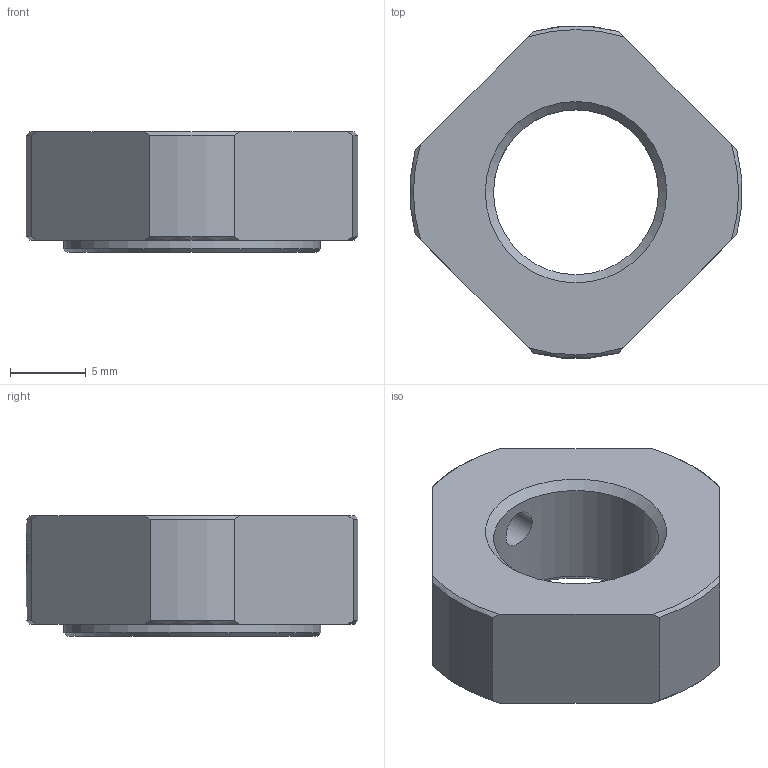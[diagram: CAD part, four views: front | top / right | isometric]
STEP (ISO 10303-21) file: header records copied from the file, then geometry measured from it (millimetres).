
FILE_DESCRIPTION(/* description */ ('STEP AP203'),/* implementation_level */ '2;1');
FILE_NAME(/* name */ 'RN 12',/* time_stamp */ '2025-06-11T07:41:29+02:00',/* author */ ('License CC BY-ND 4.0'),/* organization */ ('CADENAS'),/* preprocessor_version */ 'ST-DEVELOPER v19.3',/* originating_system */ 'PARTsolutions',/* authorisation */ ' ');
FILE_SCHEMA (('CONFIG_CONTROL_DESIGN'));
Length unit declared in the file: millimetre
Products named in the file (1): RN 12
Bounding box: 21.92 x 21.96 x 8 mm (x, y, z)
Volume: 1821.7 mm3; surface area: 1270.1 mm2
Topology: 1 solids, 1 shells, 36 faces, 87 edges, 57 vertices
Faces by surface type: plane 16, cone 12, cylinder 8
Full cylindrical faces by diameter (mm): 2.459 x1, 3 x1, 10.917 x1, 17 x1
Entity records: 1070 total; most frequent: CARTESIAN_POINT 239, DIRECTION 160, ORIENTED_EDGE 156, EDGE_CURVE 78, AXIS2_PLACEMENT_3D 63, VERTEX_POINT 56, EDGE_LOOP 50, FACE_BOUND 50
